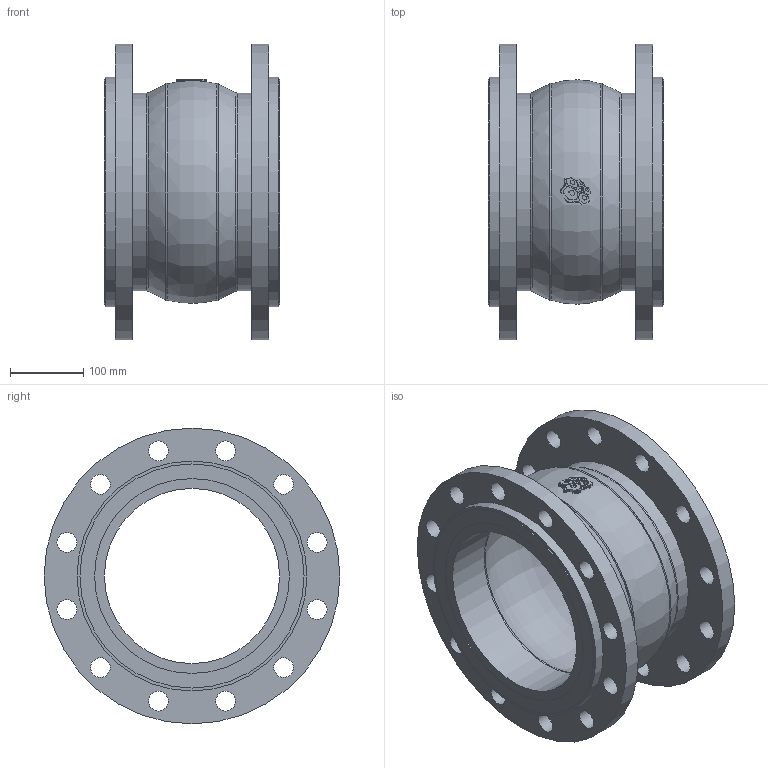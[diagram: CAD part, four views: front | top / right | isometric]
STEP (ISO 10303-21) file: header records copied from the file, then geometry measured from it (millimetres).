
FILE_DESCRIPTION(('STEP AP203'), '1');
FILE_NAME('3D_501-250-EPDM-FF', '', ('UNSPECIFIED'), ('UNSPECIFIED'), 'C3D Converter', 'C3D Toolkit', '');
FILE_SCHEMA(('CONFIG_CONTROL_DESIGN'));
Length unit declared in the file: millimetre
Bounding box: 240 x 405 x 405 mm (x, y, z)
Volume: 6774977 mm3; surface area: 776906.9 mm2
Topology: 9 solids, 9 shells, 887 faces, 2602 edges, 1741 vertices
Faces by surface type: plane 839, cylinder 36, torus 12
Full cylindrical faces by diameter (mm): 27 x24, 240 x2, 267 x2, 271 x2, 307 x2, 315 x2, 405 x2
Entity records: 36026 total; most frequent: CARTESIAN_POINT 5183, ORIENTED_EDGE 5108, DIRECTION 4445, EDGE_CURVE 2554, LINE 2439, VECTOR 2439, VERTEX_POINT 1741, EDGE_LOOP 1005
